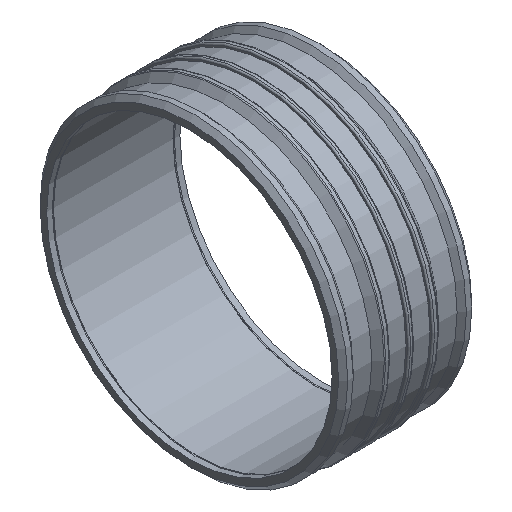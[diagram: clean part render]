
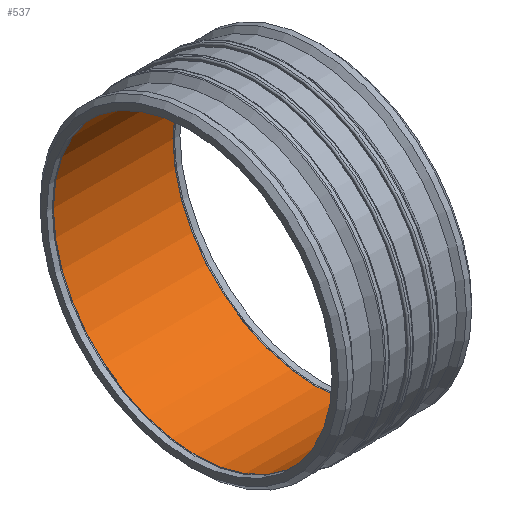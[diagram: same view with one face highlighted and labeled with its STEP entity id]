
A CAD part, isometric view. The second image highlights one B-rep face of the part: STEP entity #537.
In plain terms, the highlighted cylindrical face has radius 450 mm (diameter 900 mm), a full revolution.
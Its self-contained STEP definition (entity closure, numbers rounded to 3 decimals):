
#45=CYLINDRICAL_SURFACE('',#630,450.);
#87=FACE_BOUND('',#230,.T.);
#141=FACE_OUTER_BOUND('',#229,.T.);
#229=EDGE_LOOP('',(#471));
#230=EDGE_LOOP('',(#472));
#279=CIRCLE('',#629,450.);
#280=CIRCLE('',#631,450.);
#325=VERTEX_POINT('',#1030);
#326=VERTEX_POINT('',#1033);
#375=EDGE_CURVE('',#325,#325,#279,.T.);
#376=EDGE_CURVE('',#326,#326,#280,.T.);
#471=ORIENTED_EDGE('',*,*,#375,.T.);
#472=ORIENTED_EDGE('',*,*,#376,.F.);
#537=ADVANCED_FACE('',(#141,#87),#45,.F.);
#629=AXIS2_PLACEMENT_3D('',#1031,#811,#812);
#630=AXIS2_PLACEMENT_3D('',#1032,#813,#814);
#631=AXIS2_PLACEMENT_3D('',#1034,#815,#816);
#811=DIRECTION('center_axis',(1.,0.,0.));
#812=DIRECTION('ref_axis',(0.,0.,-1.));
#813=DIRECTION('center_axis',(1.,0.,0.));
#814=DIRECTION('ref_axis',(0.,1.,0.));
#815=DIRECTION('center_axis',(1.,0.,0.));
#816=DIRECTION('ref_axis',(0.,0.,-1.));
#1030=CARTESIAN_POINT('',(188.844,450.,0.));
#1031=CARTESIAN_POINT('Origin',(188.844,0.,0.));
#1032=CARTESIAN_POINT('Origin',(-94.422,0.,
0.));
#1033=CARTESIAN_POINT('',(-188.844,450.,0.));
#1034=CARTESIAN_POINT('Origin',(-188.844,0.,0.));
